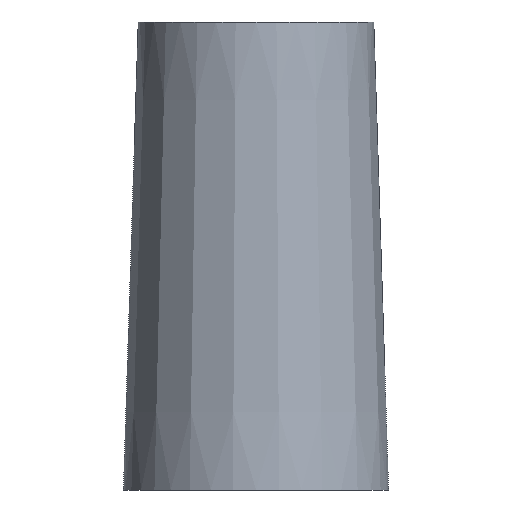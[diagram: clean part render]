
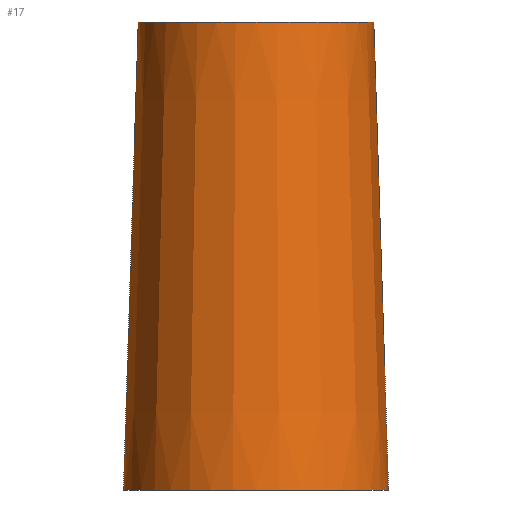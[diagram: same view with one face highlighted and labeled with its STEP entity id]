
A CAD part, front view. The second image highlights one B-rep face of the part: STEP entity #17.
In plain terms, the highlighted conical face has half-angle 1.814 degrees and reference radius 34 mm.
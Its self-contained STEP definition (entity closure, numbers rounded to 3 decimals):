
#17 = ADVANCED_FACE('',(#18),#45,.T.);
#18 = FACE_BOUND('',#19,.T.);
#19 = EDGE_LOOP('',(#20,#29,#37,#44));
#20 = ORIENTED_EDGE('',*,*,#21,.F.);
#21 = EDGE_CURVE('',#22,#22,#24,.T.);
#22 = VERTEX_POINT('',#23);
#23 = CARTESIAN_POINT('',(30.2,0.,120.));
#24 = CIRCLE('',#25,30.2);
#25 = AXIS2_PLACEMENT_3D('',#26,#27,#28);
#26 = CARTESIAN_POINT('',(0.,0.,120.));
#27 = DIRECTION('',(0.,0.,1.));
#28 = DIRECTION('',(1.,0.,0.));
#29 = ORIENTED_EDGE('',*,*,#30,.F.);
#30 = EDGE_CURVE('',#31,#22,#33,.T.);
#31 = VERTEX_POINT('',#32);
#32 = CARTESIAN_POINT('',(34.,0.,0.));
#33 = LINE('',#34,#35);
#34 = CARTESIAN_POINT('',(34.,0.,0.));
#35 = VECTOR('',#36,1.);
#36 = DIRECTION('',(-0.032,0.,
    0.999));
#37 = ORIENTED_EDGE('',*,*,#38,.T.);
#38 = EDGE_CURVE('',#31,#31,#39,.T.);
#39 = CIRCLE('',#40,34.);
#40 = AXIS2_PLACEMENT_3D('',#41,#42,#43);
#41 = CARTESIAN_POINT('',(0.,0.,0.));
#42 = DIRECTION('',(0.,0.,1.));
#43 = DIRECTION('',(1.,0.,0.));
#44 = ORIENTED_EDGE('',*,*,#30,.T.);
#45 = CONICAL_SURFACE('',#46,34.,0.032);
#46 = AXIS2_PLACEMENT_3D('',#47,#48,#49);
#47 = CARTESIAN_POINT('',(0.,0.,0.));
#48 = DIRECTION('',(-0.,-0.,-1.));
#49 = DIRECTION('',(1.,0.,0.));
